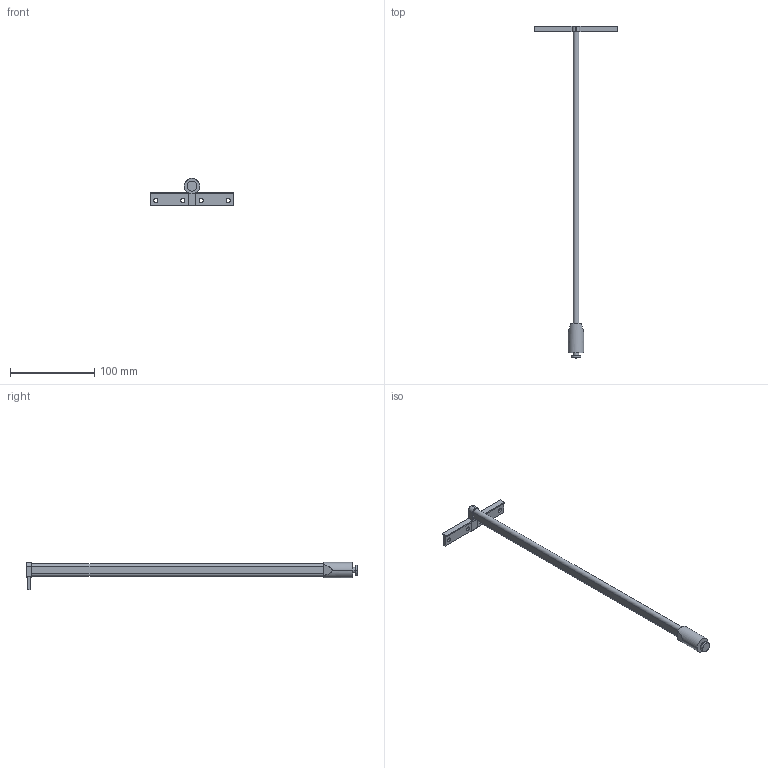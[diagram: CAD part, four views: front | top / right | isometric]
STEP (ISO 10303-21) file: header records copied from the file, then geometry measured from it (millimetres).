
FILE_DESCRIPTION (( 'STEP AP214' ), '1' );
FILE_NAME ('DWD-XP_Reling-Haengeregister_NL400_links.step', '2010-10-06T11:19:39', ( 'grass' ), ( '' ), 'SwSTEP 2.0', 'SolidWorks 2010', '' );
FILE_SCHEMA (( 'AUTOMOTIVE_DESIGN' ));
Length unit declared in the file: millimetre
Products named in the file (1): DWD-XP_Reling-Haengeregister_NL400_links
Bounding box: 97.9 x 394.3 x 32.15 mm (x, y, z)
Volume: 91750 mm3; surface area: 37668.7 mm2
Topology: 2 solids, 2 shells, 68 faces, 168 edges, 112 vertices
Faces by surface type: plane 40, cylinder 28
Entity records: 2087 total; most frequent: CARTESIAN_POINT 373, DIRECTION 354, ORIENTED_EDGE 336, EDGE_CURVE 168, AXIS2_PLACEMENT_3D 125, VERTEX_POINT 112, VECTOR 104, LINE 104
